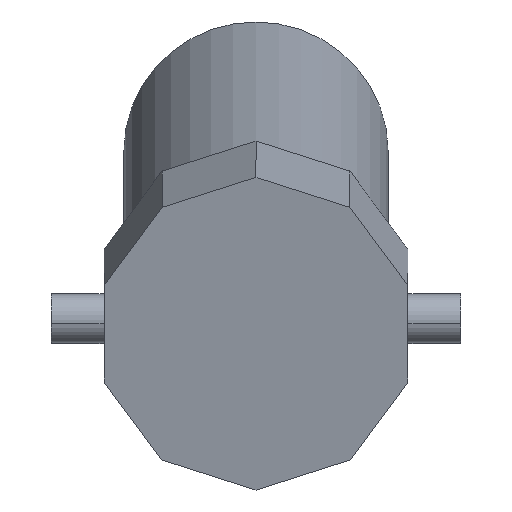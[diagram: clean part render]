
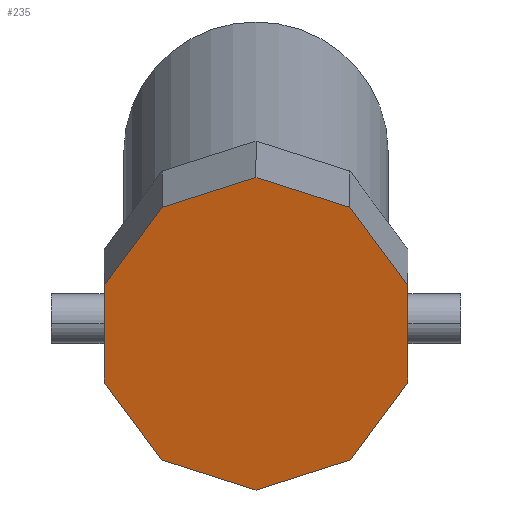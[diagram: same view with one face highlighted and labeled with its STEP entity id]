
A CAD part, left-side view. The second image highlights one B-rep face of the part: STEP entity #235.
In plain terms, the highlighted planar face has unit normal (-0.978, 0, -0.207).
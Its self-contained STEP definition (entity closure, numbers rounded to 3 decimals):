
#3 = FACE_OUTER_BOUND ( 'NONE', #336, .T. ) ;
#4 = PLANE ( 'NONE',  #5 ) ;
#5 = AXIS2_PLACEMENT_3D ( 'NONE', #6, #7, #8 ) ;
#6 = CARTESIAN_POINT ( 'NONE',  ( -535.854, 139., 458.143 ) ) ;
#7 = DIRECTION ( 'NONE',  ( -0.978, 0., -0.208 ) ) ;
#8 = DIRECTION ( 'NONE',  ( 0., -1., 0. ) ) ;
#67 = LINE ( 'NONE', #68, #73 ) ;
#68 = CARTESIAN_POINT ( 'NONE',  ( -569.8, 47., 618.159 ) ) ;
#69 = ORIENTED_EDGE ( 'NONE', *, *, #260, .F. ) ;
#71 = VERTEX_POINT ( 'NONE', #386 ) ;
#73 = VECTOR ( 'NONE', #74, 1000. ) ;
#74 = DIRECTION ( 'NONE',  ( 0.064, -0.951, -0.302 ) ) ;
#86 = LINE ( 'NONE', #87, #88 ) ;
#87 = CARTESIAN_POINT ( 'NONE',  ( -555.929, 139., 552.772 ) ) ;
#88 = VECTOR ( 'NONE', #91, 1000. ) ;
#91 = DIRECTION ( 'NONE',  ( -0.168, -0.588, 0.791 ) ) ;
#92 = LINE ( 'NONE', #93, #94 ) ;
#93 = CARTESIAN_POINT ( 'NONE',  ( -533.484, 103.859, 446.974 ) ) ;
#94 = VECTOR ( 'NONE', #95, 1000. ) ;
#95 = DIRECTION ( 'NONE',  ( -0.168, 0.588, 0.791 ) ) ;
#132 = ORIENTED_EDGE ( 'NONE', *, *, #188, .F. ) ;
#137 = VERTEX_POINT ( 'NONE', #475 ) ;
#139 = VERTEX_POINT ( 'NONE', #499 ) ;
#153 = ORIENTED_EDGE ( 'NONE', *, *, #212, .F. ) ;
#164 = ORIENTED_EDGE ( 'NONE', *, *, #318, .F. ) ;
#179 = ORIENTED_EDGE ( 'NONE', *, *, #197, .F. ) ;
#180 = EDGE_CURVE ( 'NONE', #435, #281, #86, .T. ) ;
#182 = EDGE_CURVE ( 'NONE', #71, #278, #92, .T. ) ;
#183 = EDGE_CURVE ( 'NONE', #281, #259, #454, .T. ) ;
#188 = EDGE_CURVE ( 'NONE', #276, #139, #495, .T. ) ;
#197 = EDGE_CURVE ( 'NONE', #204, #137, #541, .T. ) ;
#199 = ORIENTED_EDGE ( 'NONE', *, *, #335, .F. ) ;
#204 = VERTEX_POINT ( 'NONE', #565 ) ;
#212 = EDGE_CURVE ( 'NONE', #137, #266, #220, .T. ) ;
#220 = LINE ( 'NONE', #221, #222 ) ;
#221 = CARTESIAN_POINT ( 'NONE',  ( -555.929, -45., 552.772 ) ) ;
#222 = VECTOR ( 'NONE', #223, 1000. ) ;
#223 = DIRECTION ( 'NONE',  ( 0.208, 0., -0.978 ) ) ;
#235 = ADVANCED_FACE ( 'NONE', ( #3 ), #4, .T. ) ;
#257 = ORIENTED_EDGE ( 'NONE', *, *, #183, .F. ) ;
#259 = VERTEX_POINT ( 'NONE', #360 ) ;
#260 = EDGE_CURVE ( 'NONE', #139, #71, #361, .T. ) ;
#266 = VERTEX_POINT ( 'NONE', #384 ) ;
#276 = VERTEX_POINT ( 'NONE', #423 ) ;
#278 = VERTEX_POINT ( 'NONE', #424 ) ;
#281 = VERTEX_POINT ( 'NONE', #431 ) ;
#285 = ORIENTED_EDGE ( 'NONE', *, *, #180, .F. ) ;
#302 = EDGE_CURVE ( 'NONE', #278, #435, #523, .T. ) ;
#318 = EDGE_CURVE ( 'NONE', #266, #276, #616, .T. ) ;
#335 = EDGE_CURVE ( 'NONE', #259, #204, #67, .T. ) ;
#336 = EDGE_LOOP ( 'NONE', ( #543, #474, #69, #132, #164, #153, #179, #199, #257, #285 ) ) ;
#360 = CARTESIAN_POINT ( 'NONE',  ( -569.8, 47., 618.159 ) ) ;
#361 = LINE ( 'NONE', #362, #363 ) ;
#362 = CARTESIAN_POINT ( 'NONE',  ( -529.65, 47., 428.901 ) ) ;
#363 = VECTOR ( 'NONE', #364, 1000. ) ;
#364 = DIRECTION ( 'NONE',  ( -0.064, 0.951, 0.302 ) ) ;
#384 = CARTESIAN_POINT ( 'NONE',  ( -543.522, -45., 494.288 ) ) ;
#386 = CARTESIAN_POINT ( 'NONE',  ( -533.484, 103.859, 446.974 ) ) ;
#423 = CARTESIAN_POINT ( 'NONE',  ( -533.484, -9.859, 446.974 ) ) ;
#424 = CARTESIAN_POINT ( 'NONE',  ( -543.522, 139., 494.288 ) ) ;
#431 = CARTESIAN_POINT ( 'NONE',  ( -565.966, 103.859, 600.086 ) ) ;
#435 = VERTEX_POINT ( 'NONE', #500 ) ;
#454 = LINE ( 'NONE', #455, #456 ) ;
#455 = CARTESIAN_POINT ( 'NONE',  ( -565.966, 103.859, 600.086 ) ) ;
#456 = VECTOR ( 'NONE', #458, 1000. ) ;
#458 = DIRECTION ( 'NONE',  ( -0.064, -0.951, 0.302 ) ) ;
#474 = ORIENTED_EDGE ( 'NONE', *, *, #182, .F. ) ;
#475 = CARTESIAN_POINT ( 'NONE',  ( -555.929, -45., 552.772 ) ) ;
#495 = LINE ( 'NONE', #496, #497 ) ;
#496 = CARTESIAN_POINT ( 'NONE',  ( -533.484, -9.859, 446.974 ) ) ;
#497 = VECTOR ( 'NONE', #498, 1000. ) ;
#498 = DIRECTION ( 'NONE',  ( 0.064, 0.951, -0.302 ) ) ;
#499 = CARTESIAN_POINT ( 'NONE',  ( -529.65, 47., 428.901 ) ) ;
#500 = CARTESIAN_POINT ( 'NONE',  ( -555.929, 139., 552.772 ) ) ;
#523 = LINE ( 'NONE', #527, #528 ) ;
#527 = CARTESIAN_POINT ( 'NONE',  ( -543.522, 139., 494.288 ) ) ;
#528 = VECTOR ( 'NONE', #529, 1000. ) ;
#529 = DIRECTION ( 'NONE',  ( -0.208, 0., 0.978 ) ) ;
#541 = LINE ( 'NONE', #542, #545 ) ;
#542 = CARTESIAN_POINT ( 'NONE',  ( -565.966, -9.859, 600.086 ) ) ;
#543 = ORIENTED_EDGE ( 'NONE', *, *, #302, .F. ) ;
#545 = VECTOR ( 'NONE', #546, 1000. ) ;
#546 = DIRECTION ( 'NONE',  ( 0.168, -0.588, -0.791 ) ) ;
#565 = CARTESIAN_POINT ( 'NONE',  ( -565.966, -9.859, 600.086 ) ) ;
#616 = LINE ( 'NONE', #617, #618 ) ;
#617 = CARTESIAN_POINT ( 'NONE',  ( -543.522, -45., 494.288 ) ) ;
#618 = VECTOR ( 'NONE', #619, 1000. ) ;
#619 = DIRECTION ( 'NONE',  ( 0.168, 0.588, -0.791 ) ) ;
